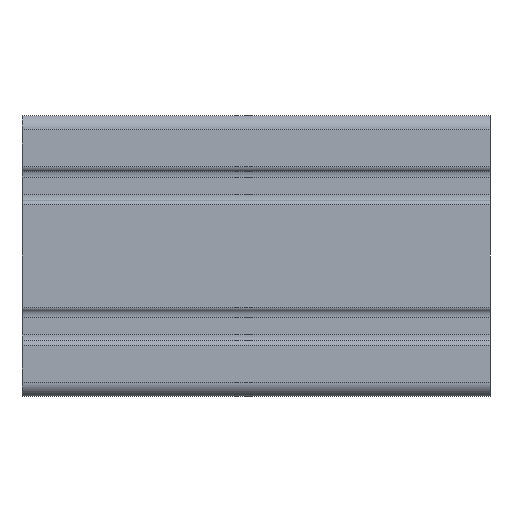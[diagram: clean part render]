
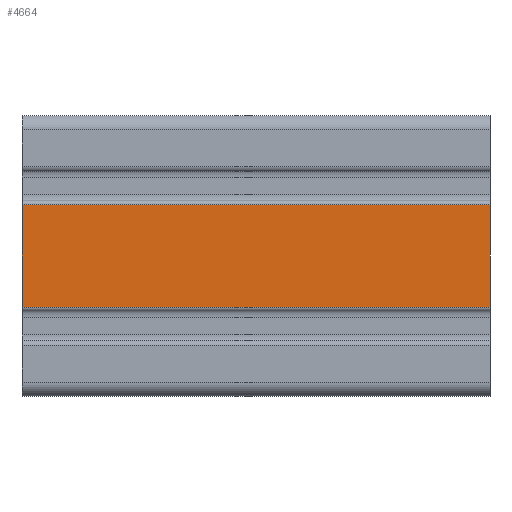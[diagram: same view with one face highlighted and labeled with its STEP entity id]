
A CAD part, left-side view. The second image highlights one B-rep face of the part: STEP entity #4664.
In plain terms, the highlighted planar face has unit normal (-1, 0, 0).
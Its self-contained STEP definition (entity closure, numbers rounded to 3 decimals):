
#162 = VECTOR ( 'NONE', #352, 1000. ) ;
#352 = DIRECTION ( 'NONE',  ( 0., -1., 0. ) ) ;
#841 = VERTEX_POINT ( 'NONE', #5109 ) ;
#1061 = DIRECTION ( 'NONE',  ( 0., 0., 1. ) ) ;
#1143 = VECTOR ( 'NONE', #2012, 1000. ) ;
#1150 = LINE ( 'NONE', #3089, #5239 ) ;
#1154 = VERTEX_POINT ( 'NONE', #6088 ) ;
#1233 = ORIENTED_EDGE ( 'NONE', *, *, #4891, .F. ) ;
#1249 = PLANE ( 'NONE',  #4126 ) ;
#1255 = EDGE_LOOP ( 'NONE', ( #3730, #5981, #1233, #3613 ) ) ;
#1690 = DIRECTION ( 'NONE',  ( 0., 0., -1. ) ) ;
#1727 = CARTESIAN_POINT ( 'NONE',  ( -30., 50., 10.9 ) ) ;
#2012 = DIRECTION ( 'NONE',  ( 0., 0., 1. ) ) ;
#2025 = CARTESIAN_POINT ( 'NONE',  ( -30., -50., 10.9 ) ) ;
#2085 = VERTEX_POINT ( 'NONE', #2025 ) ;
#2321 = CARTESIAN_POINT ( 'NONE',  ( -30., 50., 10.9 ) ) ;
#2455 = EDGE_CURVE ( 'NONE', #1154, #2085, #1150, .T. ) ;
#2674 = FACE_OUTER_BOUND ( 'NONE', #1255, .T. ) ;
#2711 = CARTESIAN_POINT ( 'NONE',  ( -30., 50., -10.9 ) ) ;
#3031 = VERTEX_POINT ( 'NONE', #2321 ) ;
#3081 = EDGE_CURVE ( 'NONE', #841, #1154, #4702, .T. ) ;
#3089 = CARTESIAN_POINT ( 'NONE',  ( -30., -50., -10.9 ) ) ;
#3187 = DIRECTION ( 'NONE',  ( 1., 0., 0. ) ) ;
#3368 = EDGE_CURVE ( 'NONE', #3031, #2085, #6011, .T. ) ;
#3613 = ORIENTED_EDGE ( 'NONE', *, *, #3081, .T. ) ;
#3730 = ORIENTED_EDGE ( 'NONE', *, *, #2455, .T. ) ;
#3759 = CARTESIAN_POINT ( 'NONE',  ( -30., 50., -10.9 ) ) ;
#4126 = AXIS2_PLACEMENT_3D ( 'NONE', #2711, #3187, #1690 ) ;
#4664 = ADVANCED_FACE ( 'NONE', ( #2674 ), #1249, .F. ) ;
#4702 = LINE ( 'NONE', #3759, #162 ) ;
#4891 = EDGE_CURVE ( 'NONE', #841, #3031, #5473, .T. ) ;
#4965 = CARTESIAN_POINT ( 'NONE',  ( -30., 50., -10.9 ) ) ;
#5109 = CARTESIAN_POINT ( 'NONE',  ( -30., 50., -10.9 ) ) ;
#5239 = VECTOR ( 'NONE', #1061, 1000. ) ;
#5473 = LINE ( 'NONE', #4965, #1143 ) ;
#5531 = VECTOR ( 'NONE', #5602, 1000. ) ;
#5602 = DIRECTION ( 'NONE',  ( 0., -1., 0. ) ) ;
#5981 = ORIENTED_EDGE ( 'NONE', *, *, #3368, .F. ) ;
#6011 = LINE ( 'NONE', #1727, #5531 ) ;
#6088 = CARTESIAN_POINT ( 'NONE',  ( -30., -50., -10.9 ) ) ;
